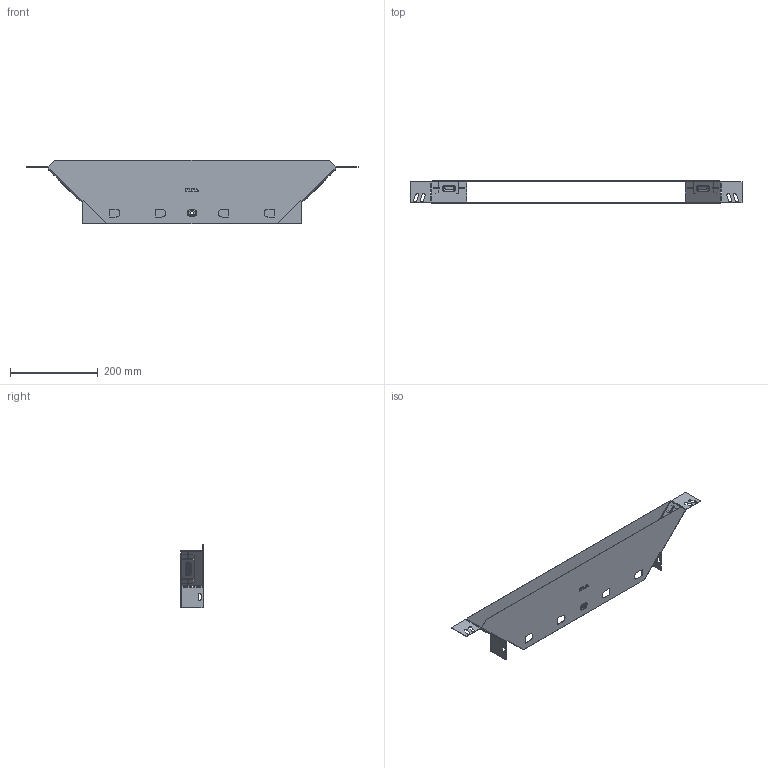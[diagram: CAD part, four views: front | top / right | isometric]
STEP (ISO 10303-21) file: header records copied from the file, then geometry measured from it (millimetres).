
FILE_DESCRIPTION (( 'STEP AP214' ), '1' );
FILE_NAME ('tn5050008_捘.STEP', '2019-06-10T08:00:02', ( '砐錪賧瘔蠈錪 Windows' ), ( '' ), 'SwSTEP 2.0', 'SolidWorks 2018', '' );
FILE_SCHEMA (( 'AUTOMOTIVE_DESIGN' ));
Length unit declared in the file: millimetre
Products named in the file (1): tn5050008_捘
Bounding box: 756.02 x 53.8 x 144 mm (x, y, z)
Volume: 136871.6 mm3; surface area: 346244.3 mm2
Topology: 2 solids, 2 shells, 588 faces, 1632 edges, 1040 vertices
Faces by surface type: plane 356, cylinder 166, torus 48, bspline 18
Entity records: 19611 total; most frequent: CARTESIAN_POINT 4219, ORIENTED_EDGE 3264, DIRECTION 3142, EDGE_CURVE 1632, VECTOR 1192, LINE 1192, VERTEX_POINT 1040, AXIS2_PLACEMENT_3D 975
